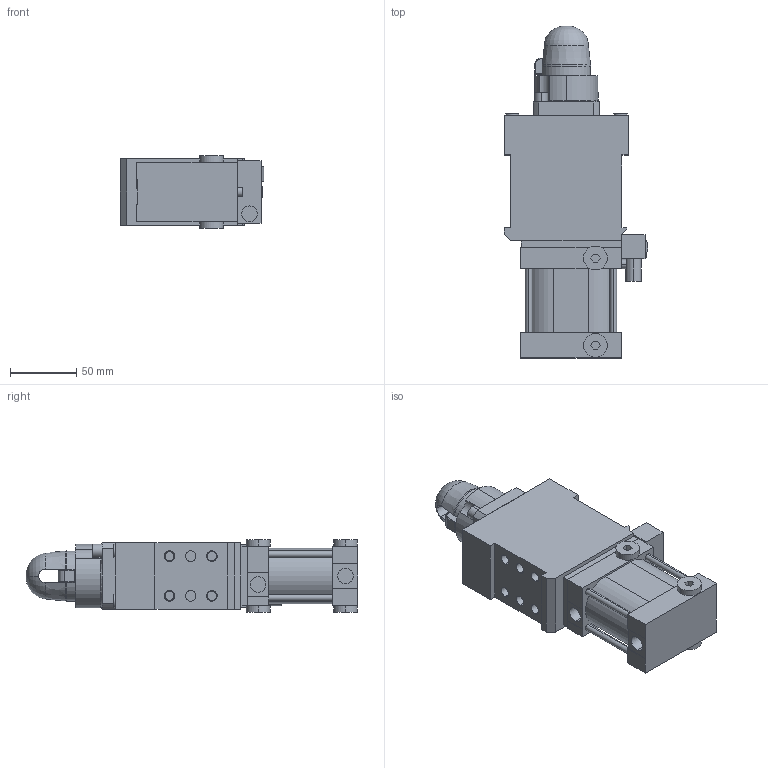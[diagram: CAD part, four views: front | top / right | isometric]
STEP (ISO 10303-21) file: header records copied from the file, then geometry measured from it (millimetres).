
FILE_DESCRIPTION (( 'STEP AP203' ), '1' );
FILE_NAME ('dca50ri-08394std.STEP', '2017-02-13T15:32:13', ( '' ), ( '' ), 'SwSTEP 2.0', 'SolidWorks 2016', '' );
FILE_SCHEMA (( 'CONFIG_CONTROL_DESIGN' ));
Length unit declared in the file: millimetre
Products named in the file (1): dca50ri-08394std
Bounding box: 108.6 x 251 x 55 mm (x, y, z)
Volume: 774411.3 mm3; surface area: 125782.2 mm2
Topology: 11 solids, 11 shells, 438 faces, 1026 edges, 675 vertices
Faces by surface type: plane 257, cylinder 160, cone 12, torus 9
Entity records: 12885 total; most frequent: CARTESIAN_POINT 2481, DIRECTION 2202, ORIENTED_EDGE 2052, EDGE_CURVE 1026, AXIS2_PLACEMENT_3D 776, VERTEX_POINT 675, LINE 650, VECTOR 650
